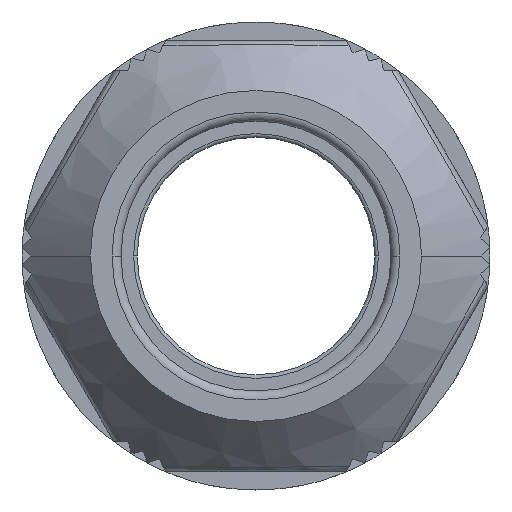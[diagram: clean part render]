
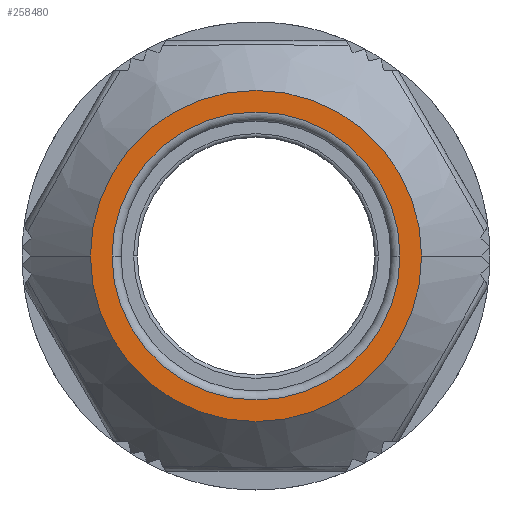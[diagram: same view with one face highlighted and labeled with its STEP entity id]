
A CAD part, left-side view. The second image highlights one B-rep face of the part: STEP entity #258480.
In plain terms, the highlighted planar face has unit normal (-1, 0, 0).
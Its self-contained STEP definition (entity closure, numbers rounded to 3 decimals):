
#251790=CARTESIAN_POINT('',(-69.814,-9.202,
0.));
#251800=VERTEX_POINT('',#251790);
#258090=CARTESIAN_POINT('',(-69.814,9.202,
0.));
#258100=VERTEX_POINT('',#258090);
#258130=CARTESIAN_POINT('',(-69.814,0.,
0.));
#258140=DIRECTION('',(1.,0.,0.));
#258150=DIRECTION('',(0.,1.,0.));
#258160=AXIS2_PLACEMENT_3D('',#258130,#258140,#258150);
#258170=CIRCLE('',#258160,9.202);
#258180=EDGE_CURVE('',#251800,#258100,#258170,.T.);
#258230=CARTESIAN_POINT('',(-69.814,-1.395,
-5.653));
#258240=DIRECTION('',(-1.,0.,0.));
#258250=DIRECTION('',(0.,1.,0.));
#258260=AXIS2_PLACEMENT_3D('',#258230,#258240,#258250);
#258270=PLANE('',#258260);
#258280=EDGE_CURVE('',#258100,#251800,#258170,.T.);
#258290=ORIENTED_EDGE('',*,*,#258280,.F.);
#258300=ORIENTED_EDGE('',*,*,#258180,.F.);
#258310=EDGE_LOOP('',(#258300,#258290));
#258320=FACE_OUTER_BOUND('',#258310,.T.);
#258330=CARTESIAN_POINT('',(-69.814,0.,
0.));
#258340=DIRECTION('',(-1.,0.,0.));
#258350=DIRECTION('',(0.,1.,0.));
#258360=AXIS2_PLACEMENT_3D('',#258330,#258340,#258350);
#258370=CIRCLE('',#258360,8.);
#258380=CARTESIAN_POINT('',(-69.814,8.,
0.));
#258390=VERTEX_POINT('',#258380);
#258400=CARTESIAN_POINT('',(-69.814,-8.,
0.));
#258410=VERTEX_POINT('',#258400);
#258420=EDGE_CURVE('',#258390,#258410,#258370,.T.);
#258430=ORIENTED_EDGE('',*,*,#258420,.F.);
#258440=EDGE_CURVE('',#258410,#258390,#258370,.T.);
#258450=ORIENTED_EDGE('',*,*,#258440,.F.);
#258460=EDGE_LOOP('',(#258450,#258430));
#258470=FACE_BOUND('',#258460,.T.);
#258480=ADVANCED_FACE('',(#258320,#258470),#258270,.T.);
